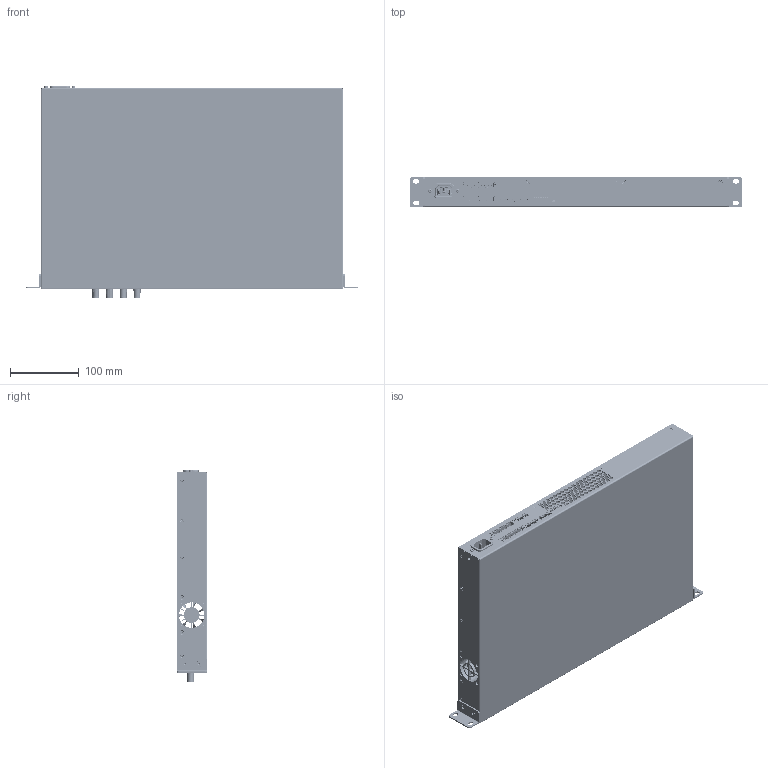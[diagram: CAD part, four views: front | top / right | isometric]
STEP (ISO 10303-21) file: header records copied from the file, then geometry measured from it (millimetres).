
FILE_DESCRIPTION (( 'STEP AP214' ), '1' );
FILE_NAME ('Blaze PowerZone 1004 Amplifier.STEP', '2025-01-07T14:04:20', ( '' ), ( '' ), 'SwSTEP 2.0', 'SolidWorks 2024', '' );
FILE_SCHEMA (( 'AUTOMOTIVE_DESIGN' ));
Length unit declared in the file: millimetre
Products named in the file (2): Blaze PowerZone 1004 Amplifier; for export_defeature^900-019-24
Assembly tree (1 placements, depth 2):
  Blaze PowerZone 1004 Amplifier
    for export_defeature^900-019-24
Bounding box: 483 x 44 x 308.5 mm (x, y, z)
Surface area: 741537.3 mm2 (no closed solid volume)
Topology: 0 solids, 575 shells, 15130 faces, 38518 edges, 24063 vertices
Faces by surface type: plane 7893, cylinder 3631, bspline 1840, cone 754, torus 541, sphere 471
Entity records: 535100 total; most frequent: CARTESIAN_POINT 186872, ORIENTED_EDGE 73817, DIRECTION 65444, EDGE_CURVE 37885, VERTEX_POINT 24059, VECTOR 22276, LINE 22276, AXIS2_PLACEMENT_3D 21584
